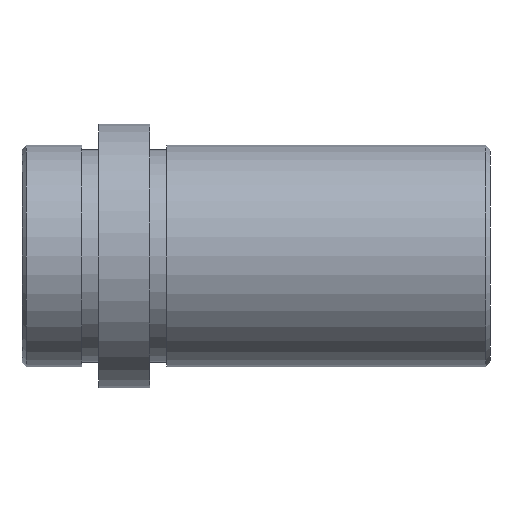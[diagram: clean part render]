
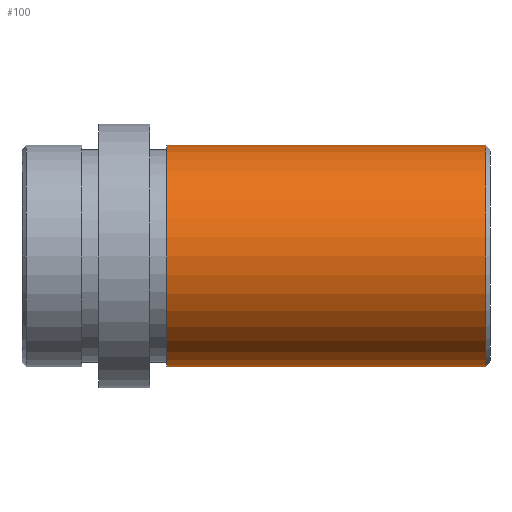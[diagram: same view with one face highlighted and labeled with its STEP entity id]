
A CAD part, front view. The second image highlights one B-rep face of the part: STEP entity #100.
In plain terms, the highlighted face is a revolution surface.
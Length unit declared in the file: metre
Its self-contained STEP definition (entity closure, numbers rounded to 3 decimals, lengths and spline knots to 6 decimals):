
#100 = ADVANCED_FACE( '', ( #157 ), #158, .F. );
#157 = FACE_OUTER_BOUND( '', #250, .T. );
#158 = SURFACE_OF_REVOLUTION( '', #251, #252 );
#250 = EDGE_LOOP( '', ( #419, #420, #421, #422 ) );
#251 = B_SPLINE_CURVE_WITH_KNOTS( '', 1, ( #423, #424 ), .UNSPECIFIED., .F., .F., ( 2, 2 ), ( -10000., 10000. ), .UNSPECIFIED. );
#252 = AXIS1_PLACEMENT( '', #425, #426 );
#419 = ORIENTED_EDGE( '', *, *, #492, .T. );
#420 = ORIENTED_EDGE( '', *, *, #490, .T. );
#421 = ORIENTED_EDGE( '', *, *, #445, .F. );
#422 = ORIENTED_EDGE( '', *, *, #489, .T. );
#423 = CARTESIAN_POINT( '', ( 10000.0545, 0., 0.013 ) );
#424 = CARTESIAN_POINT( '', ( -9999.9455, 0., 0.013 ) );
#425 = CARTESIAN_POINT( '', ( 0., 0., 0. ) );
#426 = DIRECTION( '', ( 1., 0., 0. ) );
#445 = EDGE_CURVE( '', #499, #500, #501, .T. );
#489 = EDGE_CURVE( '', #499, #571, #572, .F. );
#490 = EDGE_CURVE( '', #573, #500, #574, .T. );
#492 = EDGE_CURVE( '', #571, #573, #576, .T. );
#499 = VERTEX_POINT( '', #583 );
#500 = VERTEX_POINT( '', #584 );
#501 = CIRCLE( '', #585, 0.013 );
#571 = VERTEX_POINT( '', #671 );
#572 = LINE( '', #672, #673 );
#573 = VERTEX_POINT( '', #674 );
#574 = LINE( '', #675, #676 );
#576 = CIRCLE( '', #678, 0.013 );
#583 = CARTESIAN_POINT( '', ( 0.017, 0., -0.013 ) );
#584 = CARTESIAN_POINT( '', ( 0.017, 0., 0.013 ) );
#585 = AXIS2_PLACEMENT_3D( '', #689, #690, #691 );
#671 = CARTESIAN_POINT( '', ( 0.0545, 0., -0.013 ) );
#672 = CARTESIAN_POINT( '', ( 0.0545, 0., -0.013 ) );
#673 = VECTOR( '', #789, 1. );
#674 = CARTESIAN_POINT( '', ( 0.0545, 0., 0.013 ) );
#675 = CARTESIAN_POINT( '', ( 0.0545, 0., 0.013 ) );
#676 = VECTOR( '', #790, 1. );
#678 = AXIS2_PLACEMENT_3D( '', #794, #795, #796 );
#689 = CARTESIAN_POINT( '', ( 0.017, 0., 0. ) );
#690 = DIRECTION( '', ( -1., 0., 0. ) );
#691 = DIRECTION( '', ( 0., 0., 1. ) );
#789 = DIRECTION( '', ( -1., 0., 0. ) );
#790 = DIRECTION( '', ( -1., 0., 0. ) );
#794 = CARTESIAN_POINT( '', ( 0.0545, 0., 0. ) );
#795 = DIRECTION( '', ( -1., 0., 0. ) );
#796 = DIRECTION( '', ( 0., 0., 1. ) );
